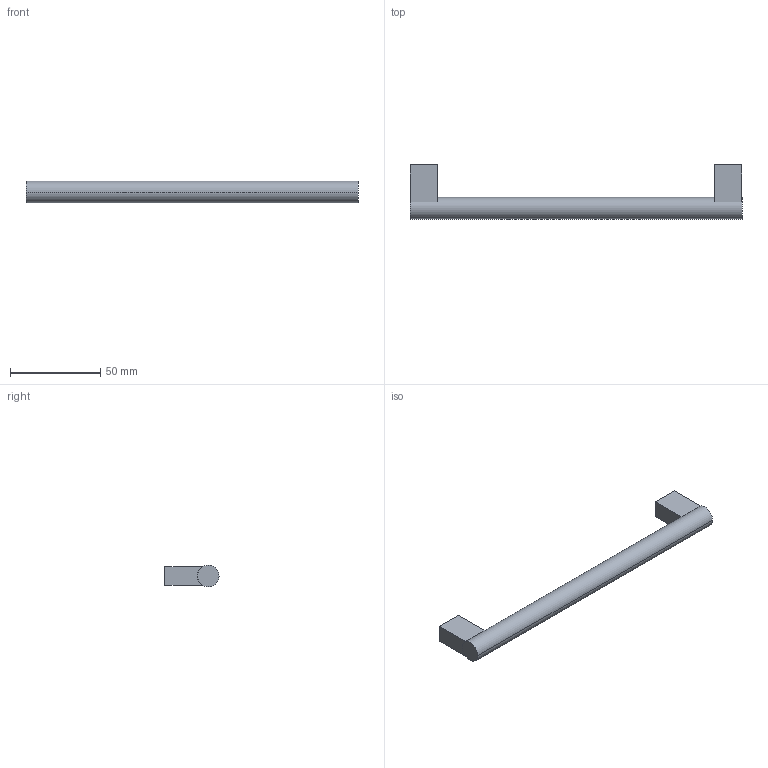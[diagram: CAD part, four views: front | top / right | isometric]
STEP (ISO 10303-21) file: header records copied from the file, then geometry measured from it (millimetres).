
FILE_DESCRIPTION( ( '' ), '1' );
FILE_NAME( 'C:/Documents and Settings/Nikhil/Desktop/Nik/Done/9995499.stp', '2013-10-24T05:49:31', ( '' ), ( '' ), ' ', ' ', ' ' );
FILE_SCHEMA( ( 'automotive_design' ) );
Length unit declared in the file: millimetre
Products named in the file (1): 1
Bounding box: 184 x 30 x 12 mm (x, y, z)
Volume: 26247.4 mm3; surface area: 9302.1 mm2
Topology: 1 solids, 1 shells, 20 faces, 48 edges, 32 vertices
Faces by surface type: plane 14, cylinder 6
Entity records: 1176 total; most frequent: DIRECTION 110, STYLED_ITEM 101, PRESENTATION_STYLE_ASSIGNMENT 101, CARTESIAN_POINT 101, COLOUR_RGB 101, ORIENTED_EDGE 96, EDGE_CURVE 48, CURVE_STYLE 48
